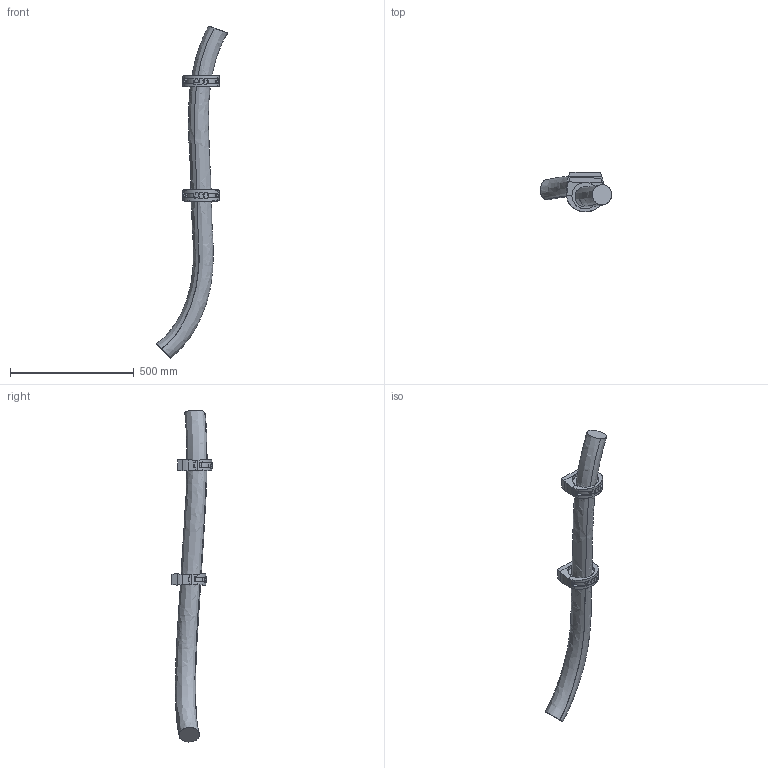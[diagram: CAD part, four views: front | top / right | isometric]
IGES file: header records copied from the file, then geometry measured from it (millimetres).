
Start section: SolidWorks IGES file using analytic representation for surfaces
Global section: file name: C:\Data\SAP_DOC\LW\IRB 6720\IRB6720-LID-SW_140kg-320_OC_01_SW_J\IRB6720-LID-SW_140kg-320_OC_01_IGES_J\IRB6720-LID-SW_140kg-320_OC_00_LINK02_CABLE.igs; native system: SolidWorks 2024; preprocessor: SolidWorks 2024; author: SEJOVAS3; date: 260610.140809; units: millimetre
Bounding box: 289.32 x 162.17 x 1343.27 mm (x, y, z)
Surface area: 475443.6 mm2 (no closed solid volume)
Topology: 0 solids, 0 shells, 206 faces, 3840 edges, 3840 vertices
Faces by surface type: bspline 146, revolution 60
